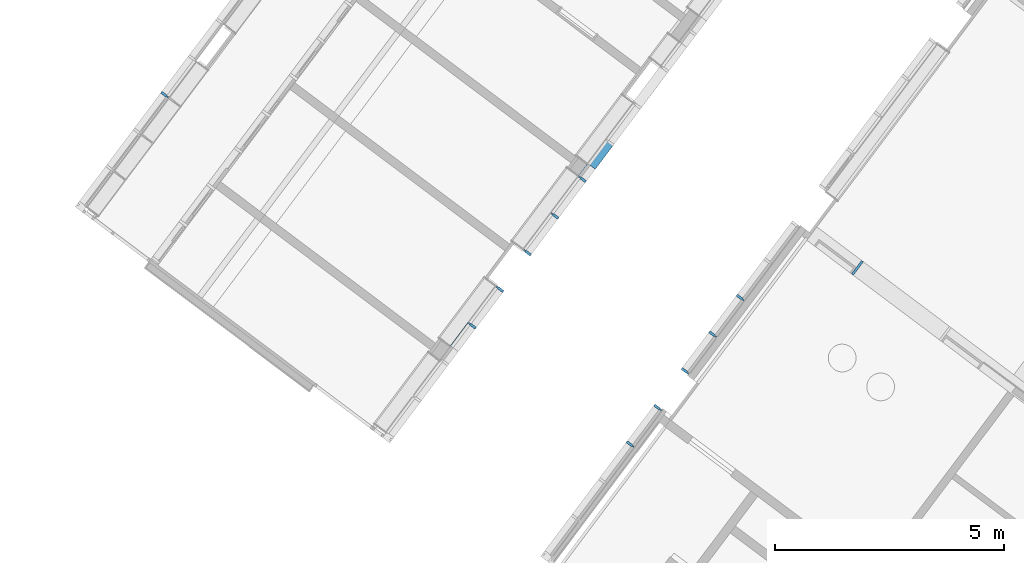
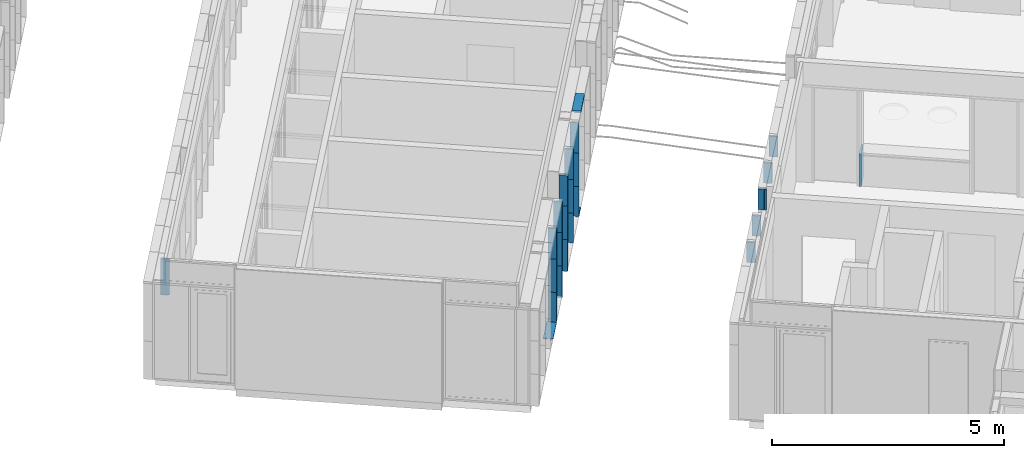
# One storey, part 85 of 243: 25 members, 4 elements without a shape of their own.
"""IFC2X3 building model written with IfcOpenShell, lengths in metres."""

from ifc_helpers import new_model, entity, si_unit, converted_unit, derived_unit, direction, frame, frame_2d, origin, origin_2d_with_axis, place, context, subcontext, project, spatial, polyline, circle_curve, parameter, trimmed, segment, composite_curve, rectangle, outline, extrude, source, transform, mapped, material, type_object, type_shapes, element, aggregate, save


model = new_model("IFC2X3")

# Units and contexts
model_context = context("Model", 3, precision=1e-05, world=origin(), true_north=direction((6.123031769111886e-17, 1.0)))
body_context = subcontext(model_context, "Body", "Model", "MODEL_VIEW")
ifc_project = project(units=[si_unit("LENGTHUNIT", "METRE"), si_unit("AREAUNIT", "SQUARE_METRE"), si_unit("VOLUMEUNIT", "CUBIC_METRE"), converted_unit("PLANEANGLEUNIT", "DEGREE", entity("IfcRatioMeasure", 0.017453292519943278), si_unit("PLANEANGLEUNIT", "RADIAN"), dimensions=[0, 0, 0, 0, 0, 0, 0]), si_unit("MASSUNIT", "GRAM", prefix="KILO"), derived_unit("MASSDENSITYUNIT", [(si_unit("MASSUNIT", "GRAM", prefix="KILO"), 1), (si_unit("LENGTHUNIT", "METRE"), -3)]), derived_unit("IONCONCENTRATIONUNIT", [(si_unit("MASSUNIT", "GRAM", prefix="KILO"), 1), (si_unit("LENGTHUNIT", "METRE"), -3)]), derived_unit("MOMENTOFINERTIAUNIT", [(si_unit("LENGTHUNIT", "METRE"), 4)]), si_unit("TIMEUNIT", "SECOND"), si_unit("FREQUENCYUNIT", "HERTZ"), si_unit("THERMODYNAMICTEMPERATUREUNIT", "DEGREE_CELSIUS"), derived_unit("THERMALTRANSMITTANCEUNIT", [(si_unit("MASSUNIT", "GRAM", prefix="KILO"), 1), (si_unit("THERMODYNAMICTEMPERATUREUNIT", "KELVIN"), -1), (si_unit("TIMEUNIT", "SECOND"), -3)]), derived_unit("THERMALCONDUCTANCEUNIT", [(si_unit("MASSUNIT", "GRAM", prefix="KILO"), 1), (si_unit("THERMODYNAMICTEMPERATUREUNIT", "KELVIN"), -1), (si_unit("TIMEUNIT", "SECOND"), -3), (si_unit("LENGTHUNIT", "METRE"), 1)]), derived_unit("VOLUMETRICFLOWRATEUNIT", [(si_unit("LENGTHUNIT", "METRE"), 3), (si_unit("TIMEUNIT", "SECOND"), -1)]), derived_unit("MASSFLOWRATEUNIT", [(si_unit("MASSUNIT", "GRAM", prefix="KILO"), 1), (si_unit("TIMEUNIT", "SECOND"), -1)]), derived_unit("ROTATIONALFREQUENCYUNIT", [(si_unit("TIMEUNIT", "SECOND"), -1)]), si_unit("ELECTRICCURRENTUNIT", "AMPERE"), si_unit("ELECTRICVOLTAGEUNIT", "VOLT"), si_unit("POWERUNIT", "WATT"), si_unit("FORCEUNIT", "NEWTON", prefix="KILO"), si_unit("ILLUMINANCEUNIT", "LUX"), si_unit("LUMINOUSFLUXUNIT", "LUMEN"), si_unit("LUMINOUSINTENSITYUNIT", "CANDELA"), derived_unit("USERDEFINED", [(si_unit("MASSUNIT", "GRAM", prefix="KILO"), -1), (si_unit("LENGTHUNIT", "METRE"), -2), (si_unit("TIMEUNIT", "SECOND"), 3), (si_unit("LUMINOUSFLUXUNIT", "LUMEN"), 1)]), derived_unit("USERDEFINED", [(si_unit("MASSUNIT", "GRAM", prefix="KILO"), 1), (si_unit("TIMEUNIT", "SECOND"), -3), (si_unit("LENGTHUNIT", "METRE"), 3), (si_unit("ELECTRICCURRENTUNIT", "AMPERE"), -2)]), derived_unit("SOUNDPOWERUNIT", [(si_unit("MASSUNIT", "GRAM", prefix="KILO"), 1), (si_unit("TIMEUNIT", "SECOND"), -3), (si_unit("LENGTHUNIT", "METRE"), 2)]), derived_unit("SOUNDPRESSUREUNIT", [(si_unit("MASSUNIT", "GRAM", prefix="KILO"), 1), (si_unit("LENGTHUNIT", "METRE"), -1), (si_unit("TIMEUNIT", "SECOND"), -2)]), derived_unit("LINEARVELOCITYUNIT", [(si_unit("LENGTHUNIT", "METRE"), 1), (si_unit("TIMEUNIT", "SECOND"), -1)]), si_unit("PRESSUREUNIT", "PASCAL"), derived_unit("USERDEFINED", [(si_unit("MASSUNIT", "GRAM", prefix="KILO"), 1), (si_unit("LENGTHUNIT", "METRE"), -2), (si_unit("TIMEUNIT", "SECOND"), -2)]), derived_unit("LINEARFORCEUNIT", [(si_unit("MASSUNIT", "GRAM", prefix="KILO"), 1), (si_unit("TIMEUNIT", "SECOND"), -2)]), derived_unit("PLANARFORCEUNIT", [(si_unit("MASSUNIT", "GRAM", prefix="KILO"), 1), (si_unit("LENGTHUNIT", "METRE"), -1), (si_unit("TIMEUNIT", "SECOND"), -2)]), derived_unit("SPECIFICHEATCAPACITYUNIT", [(si_unit("THERMODYNAMICTEMPERATUREUNIT", "KELVIN"), -1), (si_unit("LENGTHUNIT", "METRE"), 2), (si_unit("TIMEUNIT", "SECOND"), -2)]), derived_unit("HEATINGVALUEUNIT", [(si_unit("LENGTHUNIT", "METRE"), 2), (si_unit("TIMEUNIT", "SECOND"), -2)]), derived_unit("VAPORPERMEABILITYUNIT", [(si_unit("LENGTHUNIT", "METRE"), -1), (si_unit("TIMEUNIT", "SECOND"), 1)]), derived_unit("DYNAMICVISCOSITYUNIT", [(si_unit("MASSUNIT", "GRAM", prefix="KILO"), 1), (si_unit("TIMEUNIT", "SECOND"), -1), (si_unit("LENGTHUNIT", "METRE"), -1)]), derived_unit("THERMALEXPANSIONCOEFFICIENTUNIT", [(si_unit("THERMODYNAMICTEMPERATUREUNIT", "KELVIN"), -1)]), derived_unit("MODULUSOFELASTICITYUNIT", [(si_unit("MASSUNIT", "GRAM", prefix="KILO"), 1), (si_unit("LENGTHUNIT", "METRE"), -1), (si_unit("TIMEUNIT", "SECOND"), -2)]), derived_unit("ISOTHERMALMOISTURECAPACITYUNIT", [(si_unit("LENGTHUNIT", "METRE"), 3), (si_unit("MASSUNIT", "GRAM", prefix="KILO"), -1)]), derived_unit("MOISTUREDIFFUSIVITYUNIT", [(si_unit("TIMEUNIT", "SECOND"), -1), (si_unit("LENGTHUNIT", "METRE"), 2)])], contexts=[model_context])

# Site, building, storey
site_placement = place(None, frame((0.0, 0.0, 235.0), z_axis=(0.0, 0.0, 1.0), x_axis=(-0.7996477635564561, 0.6004693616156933, 0.0)))
site = spatial("IfcSite", under=ifc_project, at=site_placement, Name="Default", CompositionType="ELEMENT")
building_placement = place(site_placement, origin())
building = spatial("IfcBuilding", under=site, at=building_placement, CompositionType="ELEMENT")
storey_placement = place(building_placement, origin())
storey = spatial("IfcBuildingStorey", under=building, at=storey_placement, Name="P0- Escola", CompositionType="ELEMENT", Elevation=0.0)

# Curtain wall, members
curtain_wall_type_1 = type_object("IfcCurtainWallType", Name="Muro cortina:MC- EXT- MC2", PredefinedType="NOTDEFINED")
curtain_wall_1_placement = place(storey_placement, origin())
curtain_wall_1 = element("IfcCurtainWall", 1, at=curtain_wall_1_placement, inside=storey, type_object=curtain_wall_type_1, Name="Muro cortina:MC- EXT- MC2", ObjectType="Muro cortina:MC- EXT- MC2")
ifc_material_1 = material(Name="_Alumini- T1- Perfil")
member_type_1 = type_object("IfcMemberType", Name="Montante rectangular:MC- Alu- 140x52,5 cm- Fa patis- Centre", PredefinedType="MULLION", material=ifc_material_1)
shared_shape_1 = source(origin(), body_context, "Body", "SweptSolid", [
    extrude(outline(polyline([(-0.11699999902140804, -0.026250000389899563), (0.021999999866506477, -0.026250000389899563), (0.021999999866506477, -0.01500000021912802), (0.07299999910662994, -0.01500000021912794), (0.07299999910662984, 0.015000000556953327), (0.02200000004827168, 0.015000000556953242), (0.02200000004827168, 0.026250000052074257), (-0.11699999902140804, 0.026250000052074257), (-0.11699999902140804, -0.026250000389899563)])), frame((0.0, 0.022999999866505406, -0.8400000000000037), z_axis=(0.0, 0.0, 1.0), x_axis=(0.0, -1.0, 0.0)), (0.0, 0.0, 1.0), 0.8400000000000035),
])
type_shapes(member_type_1, [shared_shape_1])
member_1_placement = place(curtain_wall_1_placement, frame((28.345147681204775, -24.41519175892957, -0.02), z_axis=(0.0, 0.0, -1.0), x_axis=(0.0, -1.0, 0.0)))
member_1 = element("IfcMember", 2, at=member_1_placement, type_object=member_type_1, material=ifc_material_1, Name="Montante rectangular:MC- Alu- 140x52,5 cm- Fa patis- Centre", ObjectType="Montante rectangular:MC- Alu- 140x52,5 cm- Fa patis- Centre", context=body_context, shape_type="MappedRepresentation", body=[
    mapped(shared_shape_1, transform((0.0, 0.0, 0.0), scale=1.0)),
])
member_2_placement = place(curtain_wall_1_placement, frame((28.345147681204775, -25.415191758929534, -0.02), z_axis=(0.0, 0.0, -1.0), x_axis=(0.0, -1.0, 0.0)))
member_2 = element("IfcMember", 3, at=member_2_placement, type_object=member_type_1, material=ifc_material_1, Name="Montante rectangular:MC- Alu- 140x52,5 cm- Fa patis- Centre", ObjectType="Montante rectangular:MC- Alu- 140x52,5 cm- Fa patis- Centre", context=body_context, shape_type="MappedRepresentation", body=[
    mapped(shared_shape_1, transform((0.0, 0.0, 0.0), scale=1.0)),
])
member_type_2 = type_object("IfcMemberType", Name="Montante rectangular:MC- Alu- 140x52,5 cm- Fa patis- Centre", PredefinedType="MULLION", material=ifc_material_1)
shared_shape_2 = source(origin(), body_context, "Body", "SweptSolid", [
    extrude(outline(polyline([(-0.11699999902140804, -0.026250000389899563), (0.021999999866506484, -0.026250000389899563), (0.021999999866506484, -0.01500000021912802), (0.07299999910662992, -0.01500000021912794), (0.07299999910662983, 0.015000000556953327), (0.022000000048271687, 0.015000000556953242), (0.022000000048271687, 0.026250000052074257), (-0.11699999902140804, 0.026250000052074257), (-0.11699999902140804, -0.026250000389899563)])), frame((0.0, 0.022999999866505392, -0.7850000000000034), z_axis=(0.0, 0.0, 1.0), x_axis=(0.0, -1.0, 0.0)), (0.0, 0.0, 1.0), 0.7850000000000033),
])
type_shapes(member_type_2, [shared_shape_2])
member_3_placement = place(curtain_wall_1_placement, frame((28.34514768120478, -23.415191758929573, 0.035000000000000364), z_axis=(0.0, 0.0, -1.0), x_axis=(0.0, -1.0, 0.0)))
member_3 = element("IfcMember", 4, at=member_3_placement, type_object=member_type_2, material=ifc_material_1, Name="Montante rectangular:MC- Alu- 140x52,5 cm- Fa patis- Centre", ObjectType="Montante rectangular:MC- Alu- 140x52,5 cm- Fa patis- Centre", context=body_context, shape_type="MappedRepresentation", body=[
    mapped(shared_shape_2, transform((0.0, 0.0, 0.0), scale=1.0)),
])
member_4_placement = place(curtain_wall_1_placement, frame((28.345147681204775, -26.415191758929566, 0.035000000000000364), z_axis=(0.0, 0.0, -1.0), x_axis=(0.0, -1.0, 0.0)))
member_4 = element("IfcMember", 5, at=member_4_placement, type_object=member_type_2, material=ifc_material_1, Name="Montante rectangular:MC- Alu- 140x52,5 cm- Fa patis- Centre", ObjectType="Montante rectangular:MC- Alu- 140x52,5 cm- Fa patis- Centre", context=body_context, shape_type="MappedRepresentation", body=[
    mapped(shared_shape_2, transform((0.0, 0.0, 0.0), scale=1.0)),
])
member_5_placement = place(curtain_wall_1_placement, frame((28.34514768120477, -27.415191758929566, 0.035000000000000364), z_axis=(0.0, 0.0, -1.0), x_axis=(0.0, -1.0, 0.0)))
member_5 = element("IfcMember", 6, at=member_5_placement, type_object=member_type_2, material=ifc_material_1, Name="Montante rectangular:MC- Alu- 140x52,5 cm- Fa patis- Centre", ObjectType="Montante rectangular:MC- Alu- 140x52,5 cm- Fa patis- Centre", context=body_context, shape_type="MappedRepresentation", body=[
    mapped(shared_shape_2, transform((0.0, 0.0, 0.0), scale=1.0)),
])
member_type_3 = type_object("IfcMemberType", Name="Montante rectangular:MC- Alu- 140x52,5 cm- Fa patis- Centre", PredefinedType="MULLION", material=ifc_material_1)
shared_shape_3 = source(origin(), body_context, "Body", "SweptSolid", [
    extrude(outline(polyline([(-0.11699999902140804, -0.026250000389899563), (0.021999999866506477, -0.026250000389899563), (0.021999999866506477, -0.01500000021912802), (0.07299999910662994, -0.01500000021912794), (0.07299999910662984, 0.015000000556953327), (0.02200000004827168, 0.015000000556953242), (0.02200000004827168, 0.026250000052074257), (-0.11699999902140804, 0.026250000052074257), (-0.11699999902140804, -0.026250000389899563)])), frame((0.0, 0.022999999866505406, -0.8750000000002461), z_axis=(0.0, 0.0, 1.0), x_axis=(0.0, -1.0, 0.0)), (0.0, 0.0, 1.0), 0.8750000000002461),
])
type_shapes(member_type_3, [shared_shape_3])
member_6_placement = place(curtain_wall_1_placement, frame((28.34514768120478, -23.415191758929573, 0.8200000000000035), z_axis=(0.0, 0.0, -1.0), x_axis=(0.0, -1.0, 0.0)))
member_6 = element("IfcMember", 7, at=member_6_placement, type_object=member_type_3, material=ifc_material_1, Name="Montante rectangular:MC- Alu- 140x52,5 cm- Fa patis- Centre", ObjectType="Montante rectangular:MC- Alu- 140x52,5 cm- Fa patis- Centre", context=body_context, shape_type="MappedRepresentation", body=[
    mapped(shared_shape_3, transform((0.0, 0.0, 0.0), scale=1.0)),
])
member_7_placement = place(curtain_wall_1_placement, frame((28.345147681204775, -24.41519175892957, 0.8200000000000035), z_axis=(0.0, 0.0, -1.0), x_axis=(0.0, -1.0, 0.0)))
member_7 = element("IfcMember", 8, at=member_7_placement, type_object=member_type_3, material=ifc_material_1, Name="Montante rectangular:MC- Alu- 140x52,5 cm- Fa patis- Centre", ObjectType="Montante rectangular:MC- Alu- 140x52,5 cm- Fa patis- Centre", context=body_context, shape_type="MappedRepresentation", body=[
    mapped(shared_shape_3, transform((0.0, 0.0, 0.0), scale=1.0)),
])
member_8_placement = place(curtain_wall_1_placement, frame((28.345147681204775, -25.415191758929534, 0.8200000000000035), z_axis=(0.0, 0.0, -1.0), x_axis=(0.0, -1.0, 0.0)))
member_8 = element("IfcMember", 9, at=member_8_placement, type_object=member_type_3, material=ifc_material_1, Name="Montante rectangular:MC- Alu- 140x52,5 cm- Fa patis- Centre", ObjectType="Montante rectangular:MC- Alu- 140x52,5 cm- Fa patis- Centre", context=body_context, shape_type="MappedRepresentation", body=[
    mapped(shared_shape_3, transform((0.0, 0.0, 0.0), scale=1.0)),
])
member_9_placement = place(curtain_wall_1_placement, frame((28.345147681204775, -26.415191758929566, 0.8200000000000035), z_axis=(0.0, 0.0, -1.0), x_axis=(0.0, -1.0, 0.0)))
member_9 = element("IfcMember", 10, at=member_9_placement, type_object=member_type_3, material=ifc_material_1, Name="Montante rectangular:MC- Alu- 140x52,5 cm- Fa patis- Centre", ObjectType="Montante rectangular:MC- Alu- 140x52,5 cm- Fa patis- Centre", context=body_context, shape_type="MappedRepresentation", body=[
    mapped(shared_shape_3, transform((0.0, 0.0, 0.0), scale=1.0)),
])
member_10_placement = place(curtain_wall_1_placement, frame((28.34514768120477, -27.415191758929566, 0.8200000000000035), z_axis=(0.0, 0.0, -1.0), x_axis=(0.0, -1.0, 0.0)))
member_10 = element("IfcMember", 11, at=member_10_placement, type_object=member_type_3, material=ifc_material_1, Name="Montante rectangular:MC- Alu- 140x52,5 cm- Fa patis- Centre", ObjectType="Montante rectangular:MC- Alu- 140x52,5 cm- Fa patis- Centre", context=body_context, shape_type="MappedRepresentation", body=[
    mapped(shared_shape_3, transform((0.0, 0.0, 0.0), scale=1.0)),
])
member_type_4 = type_object("IfcMemberType", Name="Montante rectangular:MC- Alu- 140x52,5 cm- Fa patis- Centre", PredefinedType="MULLION", material=ifc_material_1)
shared_shape_4 = source(origin(), body_context, "Body", "SweptSolid", [
    extrude(outline(polyline([(-0.11699999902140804, -0.026250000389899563), (0.021999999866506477, -0.026250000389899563), (0.021999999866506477, -0.01500000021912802), (0.07299999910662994, -0.01500000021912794), (0.07299999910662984, 0.015000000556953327), (0.02200000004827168, 0.015000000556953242), (0.02200000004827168, 0.026250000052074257), (-0.11699999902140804, 0.026250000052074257), (-0.11699999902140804, -0.026250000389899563)])), frame((0.0, 0.022999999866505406, -0.79749999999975), z_axis=(0.0, 0.0, 1.0), x_axis=(0.0, -1.0, 0.0)), (0.0, 0.0, 1.0), 0.79749999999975),
])
type_shapes(member_type_4, [shared_shape_4])
member_11_placement = place(curtain_wall_1_placement, frame((28.34514768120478, -23.415191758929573, 1.6950000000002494), z_axis=(0.0, 0.0, -1.0), x_axis=(0.0, -1.0, 0.0)))
member_11 = element("IfcMember", 12, at=member_11_placement, type_object=member_type_4, material=ifc_material_1, Name="Montante rectangular:MC- Alu- 140x52,5 cm- Fa patis- Centre", ObjectType="Montante rectangular:MC- Alu- 140x52,5 cm- Fa patis- Centre", context=body_context, shape_type="MappedRepresentation", body=[
    mapped(shared_shape_4, transform((0.0, 0.0, 0.0), scale=1.0)),
])
member_12_placement = place(curtain_wall_1_placement, frame((28.345147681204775, -24.41519175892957, 1.6950000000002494), z_axis=(0.0, 0.0, -1.0), x_axis=(0.0, -1.0, 0.0)))
member_12 = element("IfcMember", 13, at=member_12_placement, type_object=member_type_4, material=ifc_material_1, Name="Montante rectangular:MC- Alu- 140x52,5 cm- Fa patis- Centre", ObjectType="Montante rectangular:MC- Alu- 140x52,5 cm- Fa patis- Centre", context=body_context, shape_type="MappedRepresentation", body=[
    mapped(shared_shape_4, transform((0.0, 0.0, 0.0), scale=1.0)),
])
member_13_placement = place(curtain_wall_1_placement, frame((28.345147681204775, -25.415191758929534, 1.6950000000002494), z_axis=(0.0, 0.0, -1.0), x_axis=(0.0, -1.0, 0.0)))
member_13 = element("IfcMember", 14, at=member_13_placement, type_object=member_type_4, material=ifc_material_1, Name="Montante rectangular:MC- Alu- 140x52,5 cm- Fa patis- Centre", ObjectType="Montante rectangular:MC- Alu- 140x52,5 cm- Fa patis- Centre", context=body_context, shape_type="MappedRepresentation", body=[
    mapped(shared_shape_4, transform((0.0, 0.0, 0.0), scale=1.0)),
])
member_14_placement = place(curtain_wall_1_placement, frame((28.345147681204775, -26.415191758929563, 1.6950000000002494), z_axis=(0.0, 0.0, -1.0), x_axis=(0.0, -1.0, 0.0)))
member_14 = element("IfcMember", 15, at=member_14_placement, type_object=member_type_4, material=ifc_material_1, Name="Montante rectangular:MC- Alu- 140x52,5 cm- Fa patis- Centre", ObjectType="Montante rectangular:MC- Alu- 140x52,5 cm- Fa patis- Centre", context=body_context, shape_type="MappedRepresentation", body=[
    mapped(shared_shape_4, transform((0.0, 0.0, 0.0), scale=1.0)),
])
member_15_placement = place(curtain_wall_1_placement, frame((28.34514768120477, -27.41519175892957, 1.6950000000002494), z_axis=(0.0, 0.0, -1.0), x_axis=(0.0, -1.0, 0.0)))
member_15 = element("IfcMember", 16, at=member_15_placement, type_object=member_type_4, material=ifc_material_1, Name="Montante rectangular:MC- Alu- 140x52,5 cm- Fa patis- Centre", ObjectType="Montante rectangular:MC- Alu- 140x52,5 cm- Fa patis- Centre", context=body_context, shape_type="MappedRepresentation", body=[
    mapped(shared_shape_4, transform((0.0, 0.0, 0.0), scale=1.0)),
])
member_type_5 = type_object("IfcMemberType", Name="Montante rectangular:MC- Alu- 140x52,5 cm- Fa patis- inferior", PredefinedType="MULLION", material=ifc_material_1)
shared_shape_5 = source(origin(), body_context, "Body", "SweptSolid", [
    extrude(outline(composite_curve([segment(polyline([(0.1278672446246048, -0.025867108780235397), (0.14416724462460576, -0.0258671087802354)]), True, "CONTINUOUS"), segment(polyline([(0.14416724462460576, -0.0258671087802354), (0.1441672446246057, 0.009132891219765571)]), True, "CONTINUOUS"), segment(polyline([(0.1441672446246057, 0.009132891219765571), (0.06786724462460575, 0.009132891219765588)]), True, "CONTINUOUS"), segment(polyline([(0.06786724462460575, 0.009132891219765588), (0.06786724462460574, -0.021159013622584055)]), True, "CONTINUOUS"), segment(polyline([(0.06786724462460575, -0.021159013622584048), (-0.030132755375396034, -0.012332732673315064)]), True, "CONTINUOUS"), segment(polyline([(-0.03013275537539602, -0.012332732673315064), (-0.030132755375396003, 0.027132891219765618)]), True, "CONTINUOUS"), segment(polyline([(-0.030132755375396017, 0.027132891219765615), (-0.0021327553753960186, 0.027132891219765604)]), True, "CONTINUOUS"), segment(polyline([(-0.0021327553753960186, 0.027132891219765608), (-0.0021327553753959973, 0.0291328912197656)]), True, "CONTINUOUS"), segment(polyline([(-0.0021327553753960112, 0.0291328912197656), (-0.032132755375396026, 0.02913289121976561)]), True, "CONTINUOUS"), segment(polyline([(-0.032132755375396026, 0.02913289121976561), (-0.03213275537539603, -0.012152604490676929)]), True, "CONTINUOUS"), segment(polyline([(-0.03213275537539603, -0.012152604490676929), (-0.0701327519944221, -0.008730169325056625)]), True, "CONTINUOUS"), segment(polyline([(-0.0701327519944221, -0.008730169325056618), (-0.0701327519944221, 0.0057663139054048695)]), True, "CONTINUOUS"), segment(trimmed(circle_curve(frame_2d((-0.0696327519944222, 0.005766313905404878), x_axis=(-1.0, 0.0)), 0.0004999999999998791), [parameter(269.999999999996)], [parameter(0.0)], True, "PARAMETER"), False, "CONTINUOUS"), segment(polyline([(-0.0696327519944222, 0.006266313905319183), (-0.06213275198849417, 0.00626631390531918)]), True, "CONTINUOUS"), segment(polyline([(-0.06213275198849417, 0.00626631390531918), (-0.06213275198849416, 0.008266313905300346)]), True, "CONTINUOUS"), segment(polyline([(-0.06213275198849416, 0.008266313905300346), (-0.07013275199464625, 0.008266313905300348)]), True, "CONTINUOUS"), segment(trimmed(circle_curve(frame_2d((-0.07013275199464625, 0.0062663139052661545), x_axis=(0.0, 1.0)), 0.0020000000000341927), [parameter(0.0)], [parameter(90.00000002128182)], True, "PARAMETER"), True, "CONTINUOUS"), segment(polyline([(-0.07213275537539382, 0.006266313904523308), (-0.07213275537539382, -0.008730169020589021)]), True, "CONTINUOUS"), segment(trimmed(circle_curve(frame_2d((-0.07013275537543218, -0.008730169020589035), x_axis=(-1.0, 0.0)), 0.001999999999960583), [parameter(0.0)], [parameter(84.85359280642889)], True, "PARAMETER"), True, "CONTINUOUS"), segment(polyline([(-0.07031215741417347, -0.010722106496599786), (0.06786724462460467, -0.02316710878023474)]), True, "CONTINUOUS"), segment(polyline([(0.06786724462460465, -0.023167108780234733), (0.12786724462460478, -0.02316710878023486)]), True, "CONTINUOUS"), segment(polyline([(0.12786724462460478, -0.02316710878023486), (0.1278672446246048, -0.025867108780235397)]), True, "CONTINUOUS")], self_intersect=False)), frame((-0.02913289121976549, 0.06786724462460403, -0.34333333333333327), z_axis=(0.0, 0.0, 1.0), x_axis=(0.0, -1.0, 0.0)), (0.0, 0.0, 1.0), 0.34333333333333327),
])
type_shapes(member_type_5, [shared_shape_5])
member_16_placement = place(curtain_wall_1_placement, frame((28.34514768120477, -27.415191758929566, -0.02), z_axis=(0.0, 1.0, 0.0), x_axis=(0.0, 0.0, -1.0)))
member_16 = element("IfcMember", 17, at=member_16_placement, type_object=member_type_5, material=ifc_material_1, Name="Montante rectangular:MC- Alu- 140x52,5 cm- Fa patis- inferior", ObjectType="Montante rectangular:MC- Alu- 140x52,5 cm- Fa patis- inferior", context=body_context, shape_type="MappedRepresentation", body=[
    mapped(shared_shape_5, transform((0.0, 0.0, 0.0), scale=1.0)),
])
member_type_6 = type_object("IfcMemberType", Name="Montante rectangular:MC- Alu- 140x52,5 cm- Fa patis- Superior", PredefinedType="MULLION", material=ifc_material_1)
shared_shape_6 = source(origin(), body_context, "Body", "SweptSolid", [
    extrude(outline(polyline([(-0.11366666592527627, -0.021249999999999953), (0.02633333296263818, -0.021249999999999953), (0.02633333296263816, -0.010000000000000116), (0.08733333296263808, -0.010000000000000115), (0.08733333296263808, 0.03125000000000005), (-0.11366666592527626, 0.031250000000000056), (-0.11366666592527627, -0.021249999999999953)])), frame((-0.031250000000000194, 0.027333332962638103, -0.6566666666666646), z_axis=(0.0, 0.0, 1.0), x_axis=(0.0, -1.0, 0.0)), (0.0, 0.0, 1.0), 0.6566666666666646),
])
type_shapes(member_type_6, [shared_shape_6])
member_17_placement = place(curtain_wall_1_placement, frame((28.34514768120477, -28.415191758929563, 2.545), z_axis=(0.0, -1.0, 0.0), x_axis=(0.0, 0.0, 1.0)))
member_17 = element("IfcMember", 18, at=member_17_placement, type_object=member_type_6, material=ifc_material_1, Name="Montante rectangular:MC- Alu- 140x52,5 cm- Fa patis- Superior", ObjectType="Montante rectangular:MC- Alu- 140x52,5 cm- Fa patis- Superior", context=body_context, shape_type="MappedRepresentation", body=[
    mapped(shared_shape_6, transform((0.0, 0.0, 0.0), scale=1.0)),
])
member_type_7 = type_object("IfcMemberType", Name="Montante rectangular:MC- Alu- 140x52,5 cm- Fa patis- inferior", PredefinedType="MULLION", material=ifc_material_1)
shared_shape_7 = source(origin(), body_context, "Body", "SweptSolid", [
    extrude(outline(composite_curve([segment(polyline([(0.1278672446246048, -0.02586710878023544), (0.14416724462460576, -0.025867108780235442)]), True, "CONTINUOUS"), segment(polyline([(0.14416724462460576, -0.025867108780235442), (0.1441672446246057, 0.00913289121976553)]), True, "CONTINUOUS"), segment(polyline([(0.1441672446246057, 0.00913289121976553), (0.06786724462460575, 0.009132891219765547)]), True, "CONTINUOUS"), segment(polyline([(0.06786724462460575, 0.009132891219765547), (0.06786724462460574, -0.021159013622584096)]), True, "CONTINUOUS"), segment(polyline([(0.06786724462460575, -0.02115901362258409), (-0.030132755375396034, -0.012332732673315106)]), True, "CONTINUOUS"), segment(polyline([(-0.03013275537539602, -0.012332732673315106), (-0.030132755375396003, 0.027132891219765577)]), True, "CONTINUOUS"), segment(polyline([(-0.030132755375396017, 0.027132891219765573), (-0.0021327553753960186, 0.027132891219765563)]), True, "CONTINUOUS"), segment(polyline([(-0.0021327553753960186, 0.027132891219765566), (-0.0021327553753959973, 0.029132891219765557)]), True, "CONTINUOUS"), segment(polyline([(-0.0021327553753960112, 0.029132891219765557), (-0.032132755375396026, 0.029132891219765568)]), True, "CONTINUOUS"), segment(polyline([(-0.032132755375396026, 0.029132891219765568), (-0.03213275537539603, -0.01215260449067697)]), True, "CONTINUOUS"), segment(polyline([(-0.03213275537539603, -0.01215260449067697), (-0.0701327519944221, -0.008730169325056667)]), True, "CONTINUOUS"), segment(polyline([(-0.0701327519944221, -0.00873016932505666), (-0.0701327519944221, 0.005766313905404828)]), True, "CONTINUOUS"), segment(trimmed(circle_curve(frame_2d((-0.0696327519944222, 0.0057663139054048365), x_axis=(-1.0, 0.0)), 0.0004999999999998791), [parameter(269.999999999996)], [parameter(0.0)], True, "PARAMETER"), False, "CONTINUOUS"), segment(polyline([(-0.0696327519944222, 0.006266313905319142), (-0.06213275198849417, 0.006266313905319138)]), True, "CONTINUOUS"), segment(polyline([(-0.06213275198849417, 0.006266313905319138), (-0.06213275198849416, 0.008266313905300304)]), True, "CONTINUOUS"), segment(polyline([(-0.06213275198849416, 0.008266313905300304), (-0.07013275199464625, 0.008266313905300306)]), True, "CONTINUOUS"), segment(trimmed(circle_curve(frame_2d((-0.07013275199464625, 0.006266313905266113), x_axis=(0.0, 1.0)), 0.0020000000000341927), [parameter(0.0)], [parameter(90.00000002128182)], True, "PARAMETER"), True, "CONTINUOUS"), segment(polyline([(-0.07213275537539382, 0.006266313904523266), (-0.07213275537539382, -0.008730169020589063)]), True, "CONTINUOUS"), segment(trimmed(circle_curve(frame_2d((-0.07013275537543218, -0.008730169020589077), x_axis=(-1.0, 0.0)), 0.001999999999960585), [parameter(0.0)], [parameter(84.85359280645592)], True, "PARAMETER"), True, "CONTINUOUS"), segment(polyline([(-0.07031215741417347, -0.010722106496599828), (0.06786724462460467, -0.023167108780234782)]), True, "CONTINUOUS"), segment(polyline([(0.06786724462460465, -0.023167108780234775), (0.12786724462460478, -0.023167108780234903)]), True, "CONTINUOUS"), segment(polyline([(0.12786724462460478, -0.023167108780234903), (0.1278672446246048, -0.02586710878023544)]), True, "CONTINUOUS")], self_intersect=False)), frame((-0.02913289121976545, 0.06786724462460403, -0.6344678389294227), z_axis=(0.0, 0.0, 1.0), x_axis=(0.0, -1.0, 0.0)), (0.0, 0.0, 1.0), 0.6344678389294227),
])
type_shapes(member_type_7, [shared_shape_7])
member_18_placement = place(curtain_wall_1_placement, frame((28.34514768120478, -22.780723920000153, -0.02), z_axis=(0.0, 1.0, 0.0), x_axis=(0.0, 0.0, -1.0)))
member_18 = element("IfcMember", 19, at=member_18_placement, type_object=member_type_7, material=ifc_material_1, Name="Montante rectangular:MC- Alu- 140x52,5 cm- Fa patis- inferior", ObjectType="Montante rectangular:MC- Alu- 140x52,5 cm- Fa patis- inferior", context=body_context, shape_type="MappedRepresentation", body=[
    mapped(shared_shape_7, transform((0.0, 0.0, 0.0), scale=1.0)),
])
aggregate(curtain_wall_1, [member_3, member_1, member_4, member_16, member_5, member_17, member_2, member_18, member_6, member_7, member_8, member_9, member_10, member_11, member_12, member_13, member_14, member_15])

curtain_wall_2_placement = place(storey_placement, origin())
curtain_wall_2 = element("IfcCurtainWall", 20, at=curtain_wall_2_placement, inside=storey, type_object=curtain_wall_type_1, Name="Muro cortina:MC- EXT- MC2", ObjectType="Muro cortina:MC- EXT- MC2")
member_type_8 = type_object("IfcMemberType", Name="Montante rectangular:MC- Alu- 140x52,5 cm- Fa patis- Centre", PredefinedType="MULLION", material=ifc_material_1)
shared_shape_8 = source(origin(), body_context, "Body", "SweptSolid", [
    extrude(outline(polyline([(-0.021999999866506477, -0.026250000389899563), (0.11699999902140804, -0.026250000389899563), (0.11699999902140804, 0.026250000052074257), (-0.02200000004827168, 0.026250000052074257), (-0.02200000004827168, 0.015000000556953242), (-0.07299999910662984, 0.015000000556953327), (-0.07299999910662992, -0.01500000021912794), (-0.021999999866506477, -0.01500000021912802), (-0.021999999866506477, -0.026250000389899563)])), frame((0.0, -0.022999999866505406, -0.5375000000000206), z_axis=(0.0, 0.0, 1.0), x_axis=(0.0, -1.0, 0.0)), (0.0, 0.0, 1.0), 0.5375000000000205),
])
type_shapes(member_type_8, [shared_shape_8])
member_19_placement = place(curtain_wall_2_placement, frame((23.945147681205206, -23.415191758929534, 1.9549999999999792), z_axis=(0.0, 0.0, -1.0), x_axis=(0.0, -1.0, 0.0)))
member_19 = element("IfcMember", 21, at=member_19_placement, type_object=member_type_8, material=ifc_material_1, Name="Montante rectangular:MC- Alu- 140x52,5 cm- Fa patis- Centre", ObjectType="Montante rectangular:MC- Alu- 140x52,5 cm- Fa patis- Centre", context=body_context, shape_type="MappedRepresentation", body=[
    mapped(shared_shape_8, transform((0.0, 0.0, 0.0), scale=1.0)),
])
member_20_placement = place(curtain_wall_2_placement, frame((23.94514768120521, -24.41519175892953, 1.9549999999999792), z_axis=(0.0, 0.0, -1.0), x_axis=(0.0, -1.0, 0.0)))
member_20 = element("IfcMember", 22, at=member_20_placement, type_object=member_type_8, material=ifc_material_1, Name="Montante rectangular:MC- Alu- 140x52,5 cm- Fa patis- Centre", ObjectType="Montante rectangular:MC- Alu- 140x52,5 cm- Fa patis- Centre", context=body_context, shape_type="MappedRepresentation", body=[
    mapped(shared_shape_8, transform((0.0, 0.0, 0.0), scale=1.0)),
])
member_21_placement = place(curtain_wall_2_placement, frame((23.94514768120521, -25.415191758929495, 1.9549999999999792), z_axis=(0.0, 0.0, -1.0), x_axis=(0.0, -1.0, 0.0)))
member_21 = element("IfcMember", 23, at=member_21_placement, type_object=member_type_8, material=ifc_material_1, Name="Montante rectangular:MC- Alu- 140x52,5 cm- Fa patis- Centre", ObjectType="Montante rectangular:MC- Alu- 140x52,5 cm- Fa patis- Centre", context=body_context, shape_type="MappedRepresentation", body=[
    mapped(shared_shape_8, transform((0.0, 0.0, 0.0), scale=1.0)),
])
member_22_placement = place(curtain_wall_2_placement, frame((23.94514768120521, -26.415191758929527, 1.9549999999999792), z_axis=(0.0, 0.0, -1.0), x_axis=(0.0, -1.0, 0.0)))
member_22 = element("IfcMember", 24, at=member_22_placement, type_object=member_type_8, material=ifc_material_1, Name="Montante rectangular:MC- Alu- 140x52,5 cm- Fa patis- Centre", ObjectType="Montante rectangular:MC- Alu- 140x52,5 cm- Fa patis- Centre", context=body_context, shape_type="MappedRepresentation", body=[
    mapped(shared_shape_8, transform((0.0, 0.0, 0.0), scale=1.0)),
])
member_23_placement = place(curtain_wall_2_placement, frame((23.945147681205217, -27.415191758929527, 1.9549999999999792), z_axis=(0.0, 0.0, -1.0), x_axis=(0.0, -1.0, 0.0)))
member_23 = element("IfcMember", 25, at=member_23_placement, type_object=member_type_8, material=ifc_material_1, Name="Montante rectangular:MC- Alu- 140x52,5 cm- Fa patis- Centre", ObjectType="Montante rectangular:MC- Alu- 140x52,5 cm- Fa patis- Centre", context=body_context, shape_type="MappedRepresentation", body=[
    mapped(shared_shape_8, transform((0.0, 0.0, 0.0), scale=1.0)),
])
aggregate(curtain_wall_2, [member_19, member_20, member_21, member_22, member_23])

# Curtain wall, member
curtain_wall_type_2 = type_object("IfcCurtainWallType", Name="Muro cortina:MC- EXT- MC5", PredefinedType="NOTDEFINED")
curtain_wall_3_placement = place(storey_placement, origin())
curtain_wall_3 = element("IfcCurtainWall", 26, at=curtain_wall_3_placement, inside=storey, type_object=curtain_wall_type_2, Name="Muro cortina:MC- EXT- MC5", ObjectType="Muro cortina:MC- EXT- MC5")
member_type_9 = type_object("IfcMemberType", Name="Montante rectangular:MC- Alu- 140x52,5 cm- Fa patis- Centre", PredefinedType="MULLION", material=ifc_material_1)
shared_shape_9 = source(origin(), body_context, "Body", "SweptSolid", [
    extrude(outline(polyline([(-0.021999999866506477, -0.026250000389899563), (0.11699999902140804, -0.026250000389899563), (0.11699999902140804, 0.026250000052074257), (-0.02200000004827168, 0.026250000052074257), (-0.02200000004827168, 0.015000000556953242), (-0.07299999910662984, 0.015000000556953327), (-0.07299999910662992, -0.01500000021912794), (-0.021999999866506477, -0.01500000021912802), (-0.021999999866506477, -0.026250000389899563)])), frame((0.0, -0.022999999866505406, -0.9449999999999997), z_axis=(0.0, 0.0, 1.0), x_axis=(0.0, -1.0, 0.0)), (0.0, 0.0, 1.0), 0.9449999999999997),
])
type_shapes(member_type_9, [shared_shape_9])
member_24_placement = place(curtain_wall_3_placement, frame((36.6451476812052, -23.415191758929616, 0.035000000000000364), z_axis=(0.0, 0.0, -1.0), x_axis=(0.0, -1.0, 0.0)))
member_24 = element("IfcMember", 27, at=member_24_placement, type_object=member_type_9, material=ifc_material_1, Name="Montante rectangular:MC- Alu- 140x52,5 cm- Fa patis- Centre", ObjectType="Montante rectangular:MC- Alu- 140x52,5 cm- Fa patis- Centre", context=body_context, shape_type="MappedRepresentation", body=[
    mapped(shared_shape_9, transform((0.0, 0.0, 0.0), scale=1.0)),
])
aggregate(curtain_wall_3, [member_24])

curtain_wall_type_3 = type_object("IfcCurtainWallType", Name="Muro cortina:MC- INT- b3", PredefinedType="NOTDEFINED")
curtain_wall_4_placement = place(storey_placement, origin())
curtain_wall_4 = element("IfcCurtainWall", 28, at=curtain_wall_4_placement, inside=storey, type_object=curtain_wall_type_3, Name="Muro cortina:MC- INT- b3", ObjectType="Muro cortina:MC- INT- b3")
ifc_material_2 = material(Name="_Fusta massisa- T1")
member_type_10 = type_object("IfcMemberType", Name="Montante rectangular:MC- Fusta- 38x5 cm- Menjador- neutre.rfa", PredefinedType="MULLION", material=ifc_material_2)
shared_shape_10 = source(origin(), body_context, "Body", "SweptSolid", [
    extrude(rectangle(XDim=0.36600000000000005, YDim=0.05, at=origin_2d_with_axis()), frame((0.0, 0.006999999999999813, -0.855), z_axis=(0.0, 0.0, 1.0), x_axis=(0.0, -1.0, 0.0)), (0.0, 0.0, 1.0), 0.855),
])
type_shapes(member_type_10, [shared_shape_10])
member_25_placement = place(curtain_wall_4_placement, frame((22.33764768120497, -29.465191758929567, 0.0), z_axis=(0.0, 0.0, -1.0), x_axis=(1.0, 0.0, 0.0)))
member_25 = element("IfcMember", 29, at=member_25_placement, type_object=member_type_10, material=ifc_material_2, Name="Montante rectangular:MC- Fusta- 38x5 cm- Menjador- neutre.rfa", ObjectType="Montante rectangular:MC- Fusta- 38x5 cm- Menjador- neutre.rfa", context=body_context, shape_type="MappedRepresentation", body=[
    mapped(shared_shape_10, transform((0.0, 0.0, 0.0), scale=1.0)),
])
aggregate(curtain_wall_4, [member_25])

save(model, "model.ifc")
